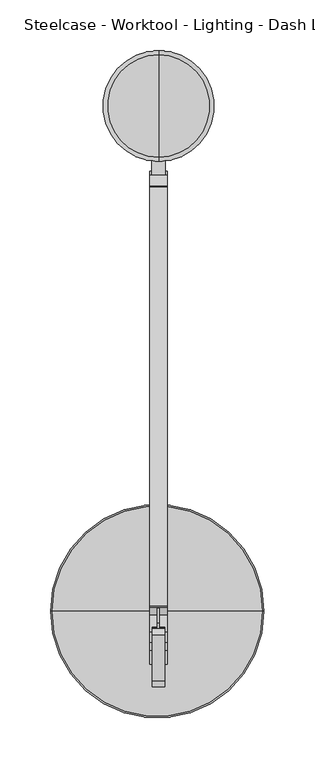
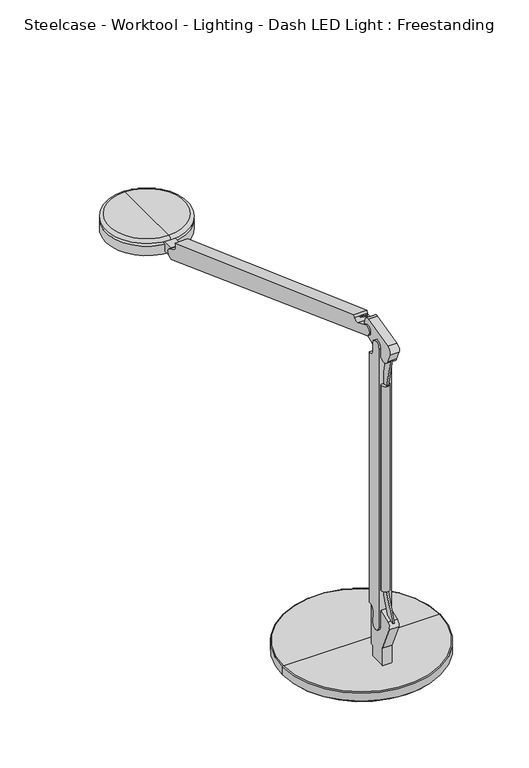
"""IFC4 building model written with IfcOpenShell, lengths in millimetres: furniture geometry, Steelcase - Worktool - Lighting - Dash LED Light : Freestanding."""

from ifc_helpers import new_model, si_unit, point, frame, frame_2d, origin, place, context, project, spatial, polyline, circle_curve, ellipse_curve, trimmed, segment, composite_curve, outline, extrude, source, transform, mapped, element, save
from ifc_brep_helpers import plane_surface, cylinder_surface, revolved_surface, advanced_brep


def steelcase_worktool_lighting_dash_led_light_freestanding_8461dae6(model_context):
    return source(origin(), model_context, "Body", "SolidModel", [
        advanced_brep(
        [(-1.3138173, 113.7487958, 886.9665244), (-105.1617173, 113.7487958, 886.9665244), (102.5340827, 113.7487958, 886.9665244), (-94.3930875, 113.7487958, 868.0005821), (-1.3138173, 113.7487958, 868.0005821), (91.7654529, 113.7487958, 868.0005821), (-94.3930875, 113.7487958, 868.9041479), (91.7654529, 113.7487958, 868.9041479), (-97.207805, 113.7487958, 868.9041479), (94.5801703, 113.7487958, 868.9041479), (-103.7438291, 113.7487958, 871.8141733), (101.1161944, 113.7487958, 871.8141733), (-103.7438291, 113.7487958, 874.6475244), (101.1161944, 113.7487958, 874.6475244), (-106.6446817, 113.7487958, 874.6475244), (104.017047, 113.7487958, 874.6475244), (-106.6446817, 113.7487958, 885.4835601), (104.017047, 113.7487958, 885.4835601)],
        [
            (0, 1),
            (1, 2, circle_curve(frame((-1.3138173, 113.7487958, 886.9665244), z_axis=(0.0, 0.0, 1.0), x_axis=(1.0, 0.0, 0.0)), 103.8479)),
            (2, 0),
            (2, 1, circle_curve(frame((-1.3138173, 113.7487958, 886.9665244), z_axis=(0.0, 0.0, 1.0), x_axis=(1.0, 0.0, 0.0)), 103.8479)),
            (3, 4),
            (4, 5),
            (5, 3, circle_curve(frame((-1.3138173, 113.7487958, 868.0005821), z_axis=(0.0, 0.0, -1.0), x_axis=(1.0, 0.0, 0.0)), 93.0792702)),
            (3, 5, circle_curve(frame((-1.3138173, 113.7487958, 868.0005821), z_axis=(0.0, 0.0, -1.0), x_axis=(1.0, 0.0, 0.0)), 93.0792702)),
            (6, 3),
            (5, 7),
            (7, 6, circle_curve(frame((-1.3138173, 113.7487958, 868.9041479), z_axis=(0.0, 0.0, -1.0), x_axis=(1.0, 0.0, 0.0)), 93.0792702)),
            (6, 7, circle_curve(frame((-1.3138173, 113.7487958, 868.9041479), z_axis=(0.0, 0.0, -1.0), x_axis=(1.0, 0.0, 0.0)), 93.0792702)),
            (8, 6),
            (7, 9),
            (9, 8, circle_curve(frame((-1.3138173, 113.7487958, 868.9041479), z_axis=(0.0, 0.0, -1.0), x_axis=(1.0, 0.0, 0.0)), 95.8939876)),
            (8, 9, circle_curve(frame((-1.3138173, 113.7487958, 868.9041479), z_axis=(0.0, 0.0, -1.0), x_axis=(1.0, 0.0, 0.0)), 95.8939876)),
            (10, 8),
            (9, 11),
            (11, 10, circle_curve(frame((-1.3138173, 113.7487958, 871.8141733), z_axis=(0.0, 0.0, -1.0), x_axis=(1.0, 0.0, 0.0)), 102.4300117)),
            (10, 11, circle_curve(frame((-1.3138173, 113.7487958, 871.8141733), z_axis=(0.0, 0.0, -1.0), x_axis=(1.0, 0.0, 0.0)), 102.4300117)),
            (12, 10),
            (11, 13),
            (13, 12, circle_curve(frame((-1.3138173, 113.7487958, 874.6475244), z_axis=(0.0, 0.0, -1.0), x_axis=(1.0, 0.0, 0.0)), 102.4300117)),
            (12, 13, circle_curve(frame((-1.3138173, 113.7487958, 874.6475244), z_axis=(0.0, 0.0, -1.0), x_axis=(1.0, 0.0, 0.0)), 102.4300117)),
            (14, 12),
            (13, 15),
            (15, 14, circle_curve(frame((-1.3138173, 113.7487958, 874.6475244), z_axis=(0.0, 0.0, -1.0), x_axis=(1.0, 0.0, 0.0)), 105.3308643)),
            (14, 15, circle_curve(frame((-1.3138173, 113.7487958, 874.6475244), z_axis=(0.0, 0.0, -1.0), x_axis=(1.0, 0.0, 0.0)), 105.3308643)),
            (16, 14),
            (15, 17),
            (17, 16, circle_curve(frame((-1.3138173, 113.7487958, 885.4835601), z_axis=(0.0, 0.0, -1.0), x_axis=(1.0, 0.0, 0.0)), 105.3308643)),
            (16, 17, circle_curve(frame((-1.3138173, 113.7487958, 885.4835601), z_axis=(0.0, 0.0, -1.0), x_axis=(1.0, 0.0, 0.0)), 105.3308643)),
            (1, 16, circle_curve(frame((-105.1617173, 113.7487958, 885.4835601), z_axis=(0.0, -1.0, 0.0), x_axis=(-1.0, 0.0, 0.0)), 1.4829643)),
            (17, 2, circle_curve(frame((102.5340827, 113.7487958, 885.4835601), z_axis=(0.0, -1.0, 0.0), x_axis=(1.0, 0.0, 0.0)), 1.4829643)),
        ],
        [
            plane_surface(frame((-1.3138173, 113.7487958, 886.9665244), z_axis=(0.0, 0.0, 1.0), x_axis=(1.0, 0.0, 0.0))),
            plane_surface(frame((-1.3138173, 113.7487958, 868.0005821), z_axis=(0.0, 0.0, -1.0), x_axis=(1.0, 0.0, 0.0))),
            cylinder_surface(frame((-1.3138173, 113.7487958, 893.3165244), z_axis=(0.0, 0.0, 1.0), x_axis=(1.0, 0.0, 0.0)), 93.0792702),
            plane_surface(frame((-1.3138173, 113.7487958, 868.9041479), z_axis=(0.0, 0.0, -1.0), x_axis=(1.0, 0.0, 0.0))),
            revolved_surface(polyline([(94.5801703, 113.7487958, 868.9041479), (101.1161944, 113.7487958, 871.8141733)]), (-1.3138173, 113.7487958, 893.3165244), (0.0, 0.0, 1.0)),
            cylinder_surface(frame((-1.3138173, 113.7487958, 893.3165244), z_axis=(0.0, 0.0, 1.0), x_axis=(1.0, 0.0, 0.0)), 102.4300117),
            plane_surface(frame((-1.3138173, 113.7487958, 874.6475244), z_axis=(0.0, 0.0, -1.0), x_axis=(1.0, 0.0, 0.0))),
            cylinder_surface(frame((-1.3138173, 113.7487958, 893.3165244), z_axis=(0.0, 0.0, 1.0), x_axis=(1.0, 0.0, 0.0)), 105.3308643),
            revolved_surface(trimmed(ellipse_curve(frame((102.5340827, 113.7487958, 885.4835601), z_axis=(0.0, -1.0, 0.0), x_axis=(1.0, 0.0, 0.0)), 1.4829643, 1.4829643), [point((104.017047, 113.7487958, 885.4835601))], [point((102.5340827, 113.7487958, 886.9665244))], True, "CARTESIAN"), (-1.3138173, 113.7487958, 893.3165244), (0.0, 0.0, 1.0)),
        ],
        [
            (0, [[1, 2, 3]]),
            (0, [[-3, 4, -1]]),
            (1, [[5, 6, 7]]),
            (1, [[-6, -5, 8]]),
            (2, [[9, -7, 10, 11]]),
            (2, [[-10, -8, -9, 12]]),
            (3, [[13, -11, 14, 15]]),
            (3, [[-14, -12, -13, 16]]),
            (4, [[17, -15, 18, 19]]),
            (4, [[-18, -16, -17, 20]]),
            (5, [[21, -19, 22, 23]]),
            (5, [[-22, -20, -21, 24]]),
            (6, [[25, -23, 26, 27]]),
            (6, [[-26, -24, -25, 28]]),
            (7, [[29, -27, 30, 31]]),
            (7, [[-30, -28, -29, 32]]),
            (8, [[33, -31, 34, -2]]),
            (8, [[-34, -32, -33, -4]]),
        ],
    ),
        advanced_brep(
        [(-2.7205732, 60.6970314, 1280.5232085), (-2.6601118, 71.5963661, 1280.5232085), (-5.8093381, 71.5963661, 1280.5232085), (-5.8093381, 60.0724751, 1280.5232085), (5.0673235, 60.0819526, 1280.5232085), (5.0673235, 71.5963661, 1280.5232085), (1.9175158, 71.5963661, 1280.5232085), (1.9785586, 60.6970314, 1280.5232085), (-2.7205732, 60.6970314, 990.8676868), (1.9785586, 60.6970314, 990.8676868), (1.9175158, 71.5963661, 990.8676868), (5.0673235, 71.5963661, 990.8676868), (5.0673235, 60.0819526, 990.8676868), (-5.7601194, 60.0819526, 990.8676868), (-5.8093381, 71.5963661, 990.8676868), (-2.6601118, 71.5963661, 990.8676868)],
        [
            (0, 1),
            (1, 2),
            (2, 3),
            (3, 4, circle_curve(frame((-0.3463979, 60.0819526, 1280.5232085), z_axis=(0.0, 0.0, 1.0), x_axis=(1.0, 0.0, 0.0)), 5.4137215)),
            (4, 5),
            (5, 6),
            (6, 7),
            (7, 0, circle_curve(frame((-0.3710073, 60.6970314, 1280.5232085), z_axis=(0.0, 0.0, -1.0), x_axis=(1.0, 0.0, 0.0)), 2.3495659)),
            (8, 9, circle_curve(frame((-0.3710073, 60.6970314, 990.8676868), z_axis=(0.0, 0.0, 1.0), x_axis=(1.0, 0.0, 0.0)), 2.3495659)),
            (9, 10),
            (10, 11),
            (11, 12),
            (12, 13, circle_curve(frame((-0.3463979, 60.0819526, 990.8676868), z_axis=(0.0, 0.0, -1.0), x_axis=(1.0, 0.0, 0.0)), 5.4137215)),
            (13, 14),
            (14, 15),
            (15, 8),
            (7, 9),
            (8, 0),
            (6, 10),
            (5, 11),
            (4, 12),
            (3, 13),
            (2, 14),
            (1, 15),
        ],
        [
            plane_surface(frame((1.9785586, 60.6970314, 1280.5232085), z_axis=(0.0, 0.0, 1.0), x_axis=(0.0, 1.0, 0.0))),
            plane_surface(frame((1.9785586, 60.6970314, 990.8676868), z_axis=(0.0, 0.0, -1.0), x_axis=(0.0, -1.0, 0.0))),
            revolved_surface(polyline([(1.9785586, 60.6970314, 990.8676868), (1.9785586, 60.6970314, 1280.5232085)]), (-0.3710073, 60.6970314, 990.8676868), (0.0, 0.0, -1.0)),
            plane_surface(frame((1.9785586, 60.6970314, 1280.5232085), z_axis=(-0.9999843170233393, -0.005600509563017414, 0.0), x_axis=(0.0, 0.0, -1.0))),
            plane_surface(frame((1.9175158, 71.5963661, 1280.5232085), z_axis=(0.0, 1.0, 0.0), x_axis=(0.0, 0.0, -1.0))),
            plane_surface(frame((5.0673235, 71.5963661, 1280.5232085), z_axis=(1.0, 0.0, 0.0), x_axis=(0.0, 0.0, -1.0))),
            cylinder_surface(frame((-0.3463979, 60.0819526, 990.8676868), z_axis=(0.0, 0.0, 1.0), x_axis=(1.0, 0.0, 0.0)), 5.4137215),
            plane_surface(frame((-5.8093381, 60.0724751, 1280.5232085), z_axis=(-1.0, 0.0, 0.0), x_axis=(0.0, 0.0, -1.0))),
            plane_surface(frame((-5.8093381, 71.5963661, 1280.5232085), z_axis=(0.0, 1.0, 0.0), x_axis=(0.0, 0.0, -1.0))),
            plane_surface(frame((-2.6601118, 71.5963661, 1280.5232085), z_axis=(0.999984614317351, -0.005547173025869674, 0.0), x_axis=(0.0, 0.0, -1.0))),
        ],
        [
            (0, [[1, 2, 3, 4, 5, 6, 7, 8]]),
            (1, [[9, 10, 11, 12, 13, 14, 15, 16]]),
            (2, [[17, -9, 18, -8]]),
            (3, [[19, -10, -17, -7]]),
            (4, [[20, -11, -19, -6]]),
            (5, [[21, -12, -20, -5]]),
            (6, [[22, -13, -21, -4]]),
            (7, [[23, -14, -22, -3]]),
            (8, [[24, -15, -23, -2]]),
            (9, [[-18, -16, -24, -1]]),
        ],
    ),
        extrude(outline(polyline([(65.3863553, 990.8120404), (51.1981926, 954.4889668), (41.2982154, 953.7822512), (55.2886405, 990.8120404), (65.3863553, 990.8120404)])), frame((-1.518321, 0.0, 0.0), z_axis=(1.0, 0.0, 0.0), x_axis=(0.0, 1.0, 0.0)), (0.0, 0.0, 1.0), 2.3620651),
        extrude(outline(polyline([(57.0984138, 1319.5276591), (65.5891746, 1280.5232085), (55.5386253, 1280.5232085), (45.5921394, 1322.2234247), (57.0984138, 1319.5276591)])), frame((-1.518321, 0.0, 0.0), z_axis=(1.0, 0.0, 0.0), x_axis=(0.0, 1.0, 0.0)), (0.0, 0.0, 1.0), 2.3620651),
        extrude(outline(polyline([(81.1968025, 1351.4679697), (101.7525568, 1352.1857924), (128.4530492, 1333.4899064), (127.6570142, 1332.6938714), (101.2218133, 1351.2039983), (81.1968025, 1350.5047095), (81.1968025, 1351.4679697)])), frame((-1.518321, 0.0, 0.0), z_axis=(1.0, 0.0, 0.0), x_axis=(0.0, 1.0, 0.0)), (0.0, 0.0, 1.0), 2.3620651),
        extrude(outline(composite_curve([segment(trimmed(circle_curve(frame_2d((68.1949157, 938.6224419)), 6.5519401), [point((74.5648093, 937.0886966))], [point((61.6429756, 938.6224419))], False, "CARTESIAN"), True, "CONTINUOUS"), segment(polyline([(61.6429756, 938.6224419), (61.6429756, 1331.2392366)]), True, "CONTINUOUS"), segment(trimmed(circle_curve(frame_2d((68.1653332, 1332.5632566)), 6.6553871), [point((61.6429756, 1331.2392366))], [point((74.6876907, 1331.2392366))], False, "CARTESIAN"), True, "CONTINUOUS"), segment(polyline([(74.6876907, 1331.2392366), (74.6876907, 1319.220088)]), True, "CONTINUOUS"), segment(trimmed(circle_curve(frame_2d((83.6122872, 1324.9350648)), 10.5976121), [point((74.6876907, 1319.220088))], [point((83.5101738, 1314.3379447))], True, "CARTESIAN"), True, "CONTINUOUS"), segment(polyline([(83.5101738, 1314.3379447), (83.5101738, 961.4556927), (81.5292112, 961.4556927)]), True, "CONTINUOUS"), segment(trimmed(circle_curve(frame_2d((81.5292112, 953.9085296)), 7.5471631), [point((81.5292112, 961.4556927))], [point((73.9866456, 953.6451374))], True, "CARTESIAN"), True, "CONTINUOUS"), segment(polyline([(73.9866456, 953.6451374), (74.5648093, 937.0886966)]), True, "CONTINUOUS")], self_intersect=False)), frame((-8.509, 0.0, 0.0), z_axis=(1.0, 0.0, 0.0), x_axis=(0.0, 1.0, 0.0)), (0.0, 0.0, 1.0), 17.018),
        advanced_brep(
        [(6.223, 78.5886447, 903.0154879), (6.223, 78.5886447, 886.9698914), (-6.223, 78.5886447, 886.9698914), (-6.223, 78.5886447, 903.0154879), (6.223, 56.5546875, 886.9698914), (6.223, 82.0847399, 903.0154879), (6.223, 82.0847399, 958.6400977), (6.223, 71.2714689, 966.0718529), (6.223, 44.2952569, 955.7166553), (6.223, 40.7698797, 947.205642), (6.223, 56.5546875, 911.7523831), (-6.223, 82.0847399, 958.6400977), (-6.223, 82.0847399, 903.0154879), (-6.223, 56.5546875, 886.9698914), (-6.223, 56.5546875, 911.7523831), (-6.223, 40.7698797, 947.205642), (-6.223, 44.2952569, 955.7166553), (-6.223, 71.2714689, 966.0718529)],
        [
            (0, 1),
            (1, 2, circle_curve(frame((0.0, 63.9841969, 886.9698914), z_axis=(0.0, 0.0, 1.0), x_axis=(1.0, 0.0, 0.0)), 15.875)),
            (2, 3),
            (3, 0, circle_curve(frame((0.0, 63.9841969, 903.0154879), z_axis=(0.0, 0.0, -1.0), x_axis=(1.0, 0.0, 0.0)), 15.875)),
            (4, 1),
            (0, 5),
            (5, 6),
            (6, 7, circle_curve(frame((6.223, 74.1242524, 958.6400977), z_axis=(1.0, 0.0, 0.0), x_axis=(0.0, 1.0, 0.0)), 7.9604875)),
            (7, 8),
            (8, 9, circle_curve(frame((6.223, 46.5708933, 949.7884196), z_axis=(1.0, 0.0, 0.0), x_axis=(0.0, 1.0, 0.0)), 6.35)),
            (9, 10),
            (10, 4),
            (11, 12),
            (12, 3),
            (2, 13),
            (13, 14),
            (14, 15),
            (15, 16, circle_curve(frame((-6.223, 46.5708933, 949.7884196), z_axis=(-1.0, 0.0, 0.0), x_axis=(0.0, 1.0, 0.0)), 6.35)),
            (16, 17),
            (17, 11, circle_curve(frame((-6.223, 74.1242524, 958.6400977), z_axis=(-1.0, 0.0, 0.0), x_axis=(0.0, 1.0, 0.0)), 7.9604875)),
            (5, 12),
            (11, 6),
            (4, 13),
            (10, 14),
            (9, 15),
            (8, 16),
            (7, 17),
        ],
        [
            cylinder_surface(frame((0.0, 63.9841969, 903.0154879), z_axis=(0.0, 0.0, 1.0), x_axis=(1.0, 0.0, 0.0)), 15.875),
            plane_surface(frame((6.223, 82.0847399, 886.9698914), z_axis=(1.0, 0.0, 0.0), x_axis=(0.0, 0.0, -1.0))),
            plane_surface(frame((-6.223, 82.0847399, 886.9698914), z_axis=(-1.0, 0.0, 0.0), x_axis=(0.0, 0.0, 1.0))),
            plane_surface(frame((6.223, 82.0847399, 958.6400977), z_axis=(0.0, 1.0, 0.0), x_axis=(-1.0, 0.0, 0.0))),
            plane_surface(frame((6.223, 82.0847399, 886.9698914), z_axis=(0.0, 0.0, -1.0), x_axis=(-1.0, 0.0, 0.0))),
            plane_surface(frame((6.223, 56.5546875, 886.9698914), z_axis=(0.0, -1.0, 0.0), x_axis=(-1.0, 0.0, 0.0))),
            plane_surface(frame((6.223, 56.5546875, 911.7523831), z_axis=(0.0, -0.9135454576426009, -0.4067366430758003), x_axis=(-1.0, 0.0, 0.0))),
            cylinder_surface(frame((-6.223, 46.5708933, 949.7884196), z_axis=(1.0, 0.0, 0.0), x_axis=(0.0, 1.0, 0.0)), 6.35),
            plane_surface(frame((6.223, 44.2952569, 955.7166553), z_axis=(0.0, -0.35836794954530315, 0.9335804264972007), x_axis=(-1.0, 0.0, 0.0))),
            cylinder_surface(frame((-6.223, 74.1242524, 958.6400977), z_axis=(1.0, 0.0, 0.0), x_axis=(0.0, 1.0, 0.0)), 7.9604875),
            plane_surface(frame((-32.548854, 63.9841969, 903.0154879), z_axis=(0.0, 0.0, -1.0), x_axis=(0.0, 1.0, 0.0))),
        ],
        [
            (0, [[1, 2, 3, 4]]),
            (1, [[5, -1, 6, 7, 8, 9, 10, 11, 12]]),
            (2, [[13, 14, -3, 15, 16, 17, 18, 19, 20]]),
            (3, [[-7, 21, -13, 22]]),
            (4, [[-15, -2, -5, 23]]),
            (5, [[24, -16, -23, -12]]),
            (6, [[25, -17, -24, -11]]),
            (7, [[26, -18, -25, -10]]),
            (8, [[27, -19, -26, -9]]),
            (9, [[-22, -20, -27, -8]]),
            (10, [[-14, -21, -6, -4]]),
        ],
    ),
        extrude(outline(composite_curve([segment(polyline([(-6.7893575, 544.8549642), (-6.7893575, 561.4371146)]), True, "CONTINUOUS"), segment(trimmed(circle_curve(frame_2d((0.0, 615.7514202)), 54.737), [point((-6.7893575, 561.4371146))], [point((6.7893575, 561.4371146))], True, "CARTESIAN"), True, "CONTINUOUS"), segment(polyline([(6.7893575, 561.4371146), (6.7893575, 544.8549642), (-6.7893575, 544.8549642)]), True, "CONTINUOUS")], self_intersect=False)), frame((0.0, 0.0, 1167.2897555), z_axis=(0.0, 0.0, 1.0), x_axis=(1.0, 0.0, 0.0)), (0.0, 0.0, 1.0), 13.4600101),
        advanced_brep(
        [(0.0, 557.9794807, 1181.5751493), (0.0, 562.0355355, 1185.3851493), (0.0, 663.397426, 1185.3851493), (0.0, 667.4534807, 1181.5751493), (0.0, 575.9679998, 1181.5751493), (0.0, 649.4649617, 1181.5751493), (0.0, 573.3002091, 1177.7651493), (0.0, 652.1327524, 1177.7651493), (0.0, 557.9794807, 1177.7651493), (0.0, 667.4534807, 1177.7651493), (0.0, 557.9794807, 1164.4301493), (0.0, 667.4534807, 1164.4301493), (0.0, 612.7164807, 1164.4301493), (0.0, 612.7164807, 1185.3851493)],
        [
            (0, 1, circle_curve(frame((0.0, 562.0355355, 1181.3211493), z_axis=(-1.0, 0.0, 0.0), x_axis=(0.0, 1.0, 0.0)), 4.064)),
            (1, 2, circle_curve(frame((0.0, 612.7164807, 1185.3851493), z_axis=(0.0, 0.0, -1.0), x_axis=(0.0, 1.0, 0.0)), 50.6809453)),
            (2, 3, circle_curve(frame((0.0, 663.397426, 1181.3211493), z_axis=(-1.0, 0.0, 0.0), x_axis=(0.0, -1.0, 0.0)), 4.064)),
            (3, 0, circle_curve(frame((0.0, 612.7164807, 1181.5751493), z_axis=(0.0, 0.0, 1.0), x_axis=(0.0, 1.0, 0.0)), 54.737)),
            (2, 1, circle_curve(frame((0.0, 612.7164807, 1185.3851493), z_axis=(0.0, 0.0, -1.0), x_axis=(0.0, 1.0, 0.0)), 50.6809453)),
            (0, 3, circle_curve(frame((0.0, 612.7164807, 1181.5751493), z_axis=(0.0, 0.0, 1.0), x_axis=(0.0, 1.0, 0.0)), 54.737)),
            (4, 0),
            (3, 5),
            (5, 4, circle_curve(frame((0.0, 612.7164807, 1181.5751493), z_axis=(0.0, 0.0, 1.0), x_axis=(0.0, 1.0, 0.0)), 36.7484809)),
            (4, 5, circle_curve(frame((0.0, 612.7164807, 1181.5751493), z_axis=(0.0, 0.0, 1.0), x_axis=(0.0, 1.0, 0.0)), 36.7484809)),
            (6, 4),
            (5, 7),
            (7, 6, circle_curve(frame((0.0, 612.7164807, 1177.7651493), z_axis=(0.0, 0.0, 1.0), x_axis=(0.0, 1.0, 0.0)), 39.4162717)),
            (6, 7, circle_curve(frame((0.0, 612.7164807, 1177.7651493), z_axis=(0.0, 0.0, 1.0), x_axis=(0.0, 1.0, 0.0)), 39.4162717)),
            (8, 6),
            (7, 9),
            (9, 8, circle_curve(frame((0.0, 612.7164807, 1177.7651493), z_axis=(0.0, 0.0, 1.0), x_axis=(0.0, 1.0, 0.0)), 54.737)),
            (8, 9, circle_curve(frame((0.0, 612.7164807, 1177.7651493), z_axis=(0.0, 0.0, 1.0), x_axis=(0.0, 1.0, 0.0)), 54.737)),
            (10, 8),
            (9, 11),
            (11, 10, circle_curve(frame((0.0, 612.7164807, 1164.4301493), z_axis=(0.0, 0.0, 1.0), x_axis=(0.0, 1.0, 0.0)), 54.737)),
            (10, 11, circle_curve(frame((0.0, 612.7164807, 1164.4301493), z_axis=(0.0, 0.0, 1.0), x_axis=(0.0, 1.0, 0.0)), 54.737)),
            (12, 10),
            (11, 12),
            (1, 13),
            (13, 2),
        ],
        [
            revolved_surface(trimmed(ellipse_curve(frame((0.0, 663.397426, 1181.3211493), z_axis=(-1.0, 0.0, 0.0), x_axis=(0.0, -1.0, 0.0)), 4.064, 4.064), [point((0.0, 663.397426, 1185.3851493))], [point((0.0, 667.4534807, 1181.5751493))], True, "CARTESIAN"), (0.0, 612.7164807, 1185.3851493), (0.0, 0.0, -1.0)),
            plane_surface(frame((0.0, 612.7164807, 1181.5751493), z_axis=(0.0, 0.0, -1.0), x_axis=(0.0, 1.0, 0.0))),
            revolved_surface(polyline([(0.0, 649.4649617, 1181.5751493), (0.0, 652.1327524, 1177.7651493)]), (0.0, 612.7164807, 1185.3851493), (0.0, 0.0, -1.0)),
            plane_surface(frame((0.0, 612.7164807, 1177.7651493), z_axis=(0.0, 0.0, 1.0), x_axis=(0.0, 1.0, 0.0))),
            cylinder_surface(frame((0.0, 612.7164807, 1185.3851493), z_axis=(0.0, 0.0, -1.0), x_axis=(0.0, 1.0, 0.0)), 54.737),
            plane_surface(frame((0.0, 612.7164807, 1164.4301493), z_axis=(0.0, 0.0, -1.0), x_axis=(0.0, 1.0, 0.0))),
            plane_surface(frame((0.0, 612.7164807, 1185.3851493), z_axis=(0.0, 0.0, 1.0), x_axis=(0.0, 1.0, 0.0))),
        ],
        [
            (0, [[1, 2, 3, 4]]),
            (0, [[-3, 5, -1, 6]]),
            (1, [[7, -4, 8, 9]]),
            (1, [[-8, -6, -7, 10]]),
            (2, [[11, -9, 12, 13]]),
            (2, [[-12, -10, -11, 14]]),
            (3, [[15, -13, 16, 17]]),
            (3, [[-16, -14, -15, 18]]),
            (4, [[19, -17, 20, 21]]),
            (4, [[-20, -18, -19, 22]]),
            (5, [[23, -21, 24]]),
            (5, [[-24, -22, -23]]),
            (6, [[25, 26, -2]]),
            (6, [[-26, -25, -5]]),
        ],
    ),
        extrude(outline(composite_curve([segment(polyline([(74.6876907, 1325.0660994), (74.6876907, 1333.051182)]), True, "CONTINUOUS"), segment(trimmed(circle_curve(frame_2d((68.0907541, 1332.6821255)), 6.6072517), [point((74.6876907, 1333.051182))], [point((61.4869966, 1332.4672712))], True, "CARTESIAN"), True, "CONTINUOUS"), segment(polyline([(61.4869966, 1332.4672712), (61.4869966, 1319.9717025), (57.3848008, 1317.931247)]), True, "CONTINUOUS"), segment(trimmed(circle_curve(frame_2d((53.528879, 1325.6833132)), 8.6580982), [point((57.3848008, 1317.931247))], [point((45.5921394, 1322.2234247))], False, "CARTESIAN"), True, "CONTINUOUS"), segment(polyline([(45.5921394, 1322.2234247), (39.9180671, 1335.2393454)]), True, "CONTINUOUS"), segment(trimmed(circle_curve(frame_2d((46.4441906, 1338.0842995)), 7.1192733), [point((39.9180671, 1335.2393454))], [point((44.7607948, 1345.0016855))], False, "CARTESIAN"), True, "CONTINUOUS"), segment(polyline([(44.7607948, 1345.0016855), (89.7920838, 1355.9603749)]), True, "CONTINUOUS"), segment(trimmed(circle_curve(frame_2d((91.157557, 1350.3493921)), 5.774742), [point((89.7920838, 1355.9603749))], [point((96.3335285, 1352.9100492))], False, "CARTESIAN"), True, "CONTINUOUS"), segment(polyline([(96.3335285, 1352.9100492), (98.1644738, 1345.3863552)]), True, "CONTINUOUS"), segment(trimmed(circle_curve(frame_2d((87.3211267, 1342.7475483)), 11.1598153), [point((98.1644738, 1345.3863552))], [point((91.7807339, 1332.5175248))], False, "CARTESIAN"), True, "CONTINUOUS"), segment(polyline([(91.7807339, 1332.5175248), (74.6876907, 1325.0660994)]), True, "CONTINUOUS")], self_intersect=False)), frame((-6.223, 0.0, 0.0), z_axis=(1.0, 0.0, 0.0), x_axis=(0.0, 1.0, 0.0)), (0.0, 0.0, 1.0), 12.446),
        extrude(outline(composite_curve([segment(polyline([(538.9744702, 1168.2150927), (87.1350953, 1335.0761203)]), True, "CONTINUOUS"), segment(trimmed(circle_curve(frame_2d((89.9591686, 1341.1323614)), 6.6823235), [point((87.1350953, 1335.0761203))], [point((92.783242, 1347.1886026))], False, "CARTESIAN"), True, "CONTINUOUS"), segment(polyline([(92.783242, 1347.1886026), (109.6515803, 1339.3227624)]), True, "CONTINUOUS"), segment(trimmed(circle_curve(frame_2d((112.0659507, 1344.5003933)), 5.7128842), [point((109.6515803, 1339.3227624))], [point((117.2435816, 1342.0860229))], True, "CARTESIAN"), True, "CONTINUOUS"), segment(polyline([(117.2435816, 1342.0860229), (118.5153249, 1345.5960434), (532.5213758, 1195.5942354)]), True, "CONTINUOUS"), segment(trimmed(circle_curve(frame_2d((540.6928934, 1191.2457491)), 9.256513), [point((532.5213758, 1195.5942354))], [point((533.3631432, 1185.5926266))], True, "CARTESIAN"), True, "CONTINUOUS"), segment(polyline([(533.3631432, 1185.5926266), (544.6282357, 1180.3396244)]), True, "CONTINUOUS"), segment(trimmed(circle_curve(frame_2d((541.801353, 1174.2773586)), 6.688971), [point((544.6282357, 1180.3396244))], [point((538.9744702, 1168.2150927))], False, "CARTESIAN"), True, "CONTINUOUS")], self_intersect=False)), frame((-8.509, 0.0, 0.0), z_axis=(1.0, 0.0, 0.0), x_axis=(0.0, 1.0, 0.0)), (0.0, 0.0, 1.0), 17.018),
    ])


if __name__ == "__main__":
    model = new_model("IFC4")
    model_context = context("Model", 3, world=origin())
    ifc_project = project(units=[si_unit("LENGTHUNIT", "METRE", prefix="MILLI")], contexts=[model_context])
    site = spatial("IfcSite", under=ifc_project)
    building = spatial("IfcBuilding", under=site)
    placement = place(None, origin())
    steelcase_worktool_lighting_dash_led_light_freestanding_shape = steelcase_worktool_lighting_dash_led_light_freestanding_8461dae6(model_context)
    element("IfcFurniture", 1, ObjectType="Steelcase - Worktool - Lighting - Dash LED Light : Freestanding", at=placement, inside=building, context=model_context, shape_type="MappedRepresentation", body=[
        mapped(steelcase_worktool_lighting_dash_led_light_freestanding_shape, transform((0.0, 0.0, 0.0), x_axis=(1.0, 0.0, 0.0), y_axis=(0.0, 1.0, 0.0), z_axis=(0.0, 0.0, 1.0))),
    ])
    save(model, "model.ifc")
